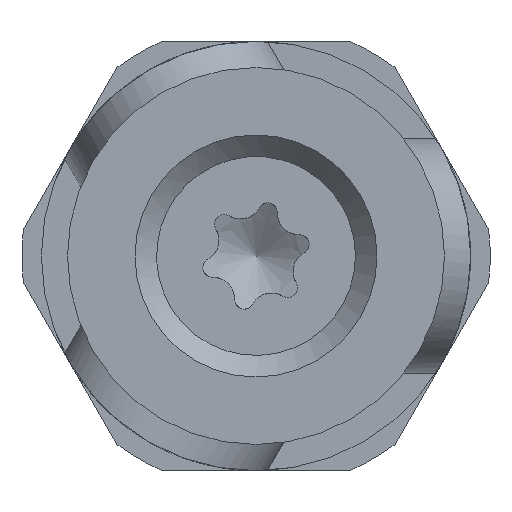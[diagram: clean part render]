
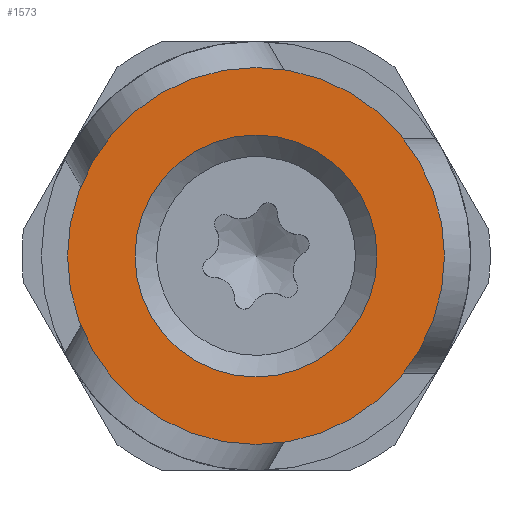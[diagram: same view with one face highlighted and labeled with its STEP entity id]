
A CAD part, front view. The second image highlights one B-rep face of the part: STEP entity #1573.
In plain terms, the highlighted planar face has unit normal (0, -1, 0).
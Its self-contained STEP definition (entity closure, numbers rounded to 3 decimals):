
#308=FACE_BOUND('',#451,.T.);
#356=FACE_OUTER_BOUND('',#450,.T.);
#450=EDGE_LOOP('',(#1241,#1242));
#451=EDGE_LOOP('',(#1243,#1244));
#557=CIRCLE('',#1745,4.83);
#558=CIRCLE('',#1746,4.83);
#559=CIRCLE('',#1748,3.1);
#560=CIRCLE('',#1749,3.1);
#690=VERTEX_POINT('',#2851);
#691=VERTEX_POINT('',#2853);
#692=VERTEX_POINT('',#2857);
#693=VERTEX_POINT('',#2858);
#887=EDGE_CURVE('',#690,#691,#557,.T.);
#888=EDGE_CURVE('',#691,#690,#558,.T.);
#889=EDGE_CURVE('',#692,#693,#559,.T.);
#890=EDGE_CURVE('',#693,#692,#560,.T.);
#1241=ORIENTED_EDGE('',*,*,#888,.F.);
#1242=ORIENTED_EDGE('',*,*,#887,.F.);
#1243=ORIENTED_EDGE('',*,*,#889,.T.);
#1244=ORIENTED_EDGE('',*,*,#890,.T.);
#1453=PLANE('',#1747);
#1573=ADVANCED_FACE('',(#356,#308),#1453,.T.);
#1745=AXIS2_PLACEMENT_3D('',#2854,#2095,#2096);
#1746=AXIS2_PLACEMENT_3D('',#2855,#2097,#2098);
#1747=AXIS2_PLACEMENT_3D('',#2856,#2099,#2100);
#1748=AXIS2_PLACEMENT_3D('',#2859,#2101,#2102);
#1749=AXIS2_PLACEMENT_3D('',#2860,#2103,#2104);
#2095=DIRECTION('center_axis',(0.,1.,0.));
#2096=DIRECTION('ref_axis',(0.5,0.,0.866));
#2097=DIRECTION('center_axis',(0.,1.,0.));
#2098=DIRECTION('ref_axis',(0.5,0.,0.866));
#2099=DIRECTION('center_axis',(0.,-1.,0.));
#2100=DIRECTION('ref_axis',(-0.866,0.,0.5));
#2101=DIRECTION('center_axis',(0.,1.,0.));
#2102=DIRECTION('ref_axis',(-0.5,0.,-0.866));
#2103=DIRECTION('center_axis',(0.,1.,0.));
#2104=DIRECTION('ref_axis',(-0.5,0.,-0.866));
#2851=CARTESIAN_POINT('',(-2.415,-2.4,-4.183));
#2853=CARTESIAN_POINT('',(2.415,-2.4,4.183));
#2854=CARTESIAN_POINT('Origin',(0.,-2.4,0.));
#2855=CARTESIAN_POINT('Origin',(0.,-2.4,0.));
#2856=CARTESIAN_POINT('Origin',(1.208,-2.4,2.092));
#2857=CARTESIAN_POINT('',(-1.55,-2.4,-2.685));
#2858=CARTESIAN_POINT('',(1.55,-2.4,2.685));
#2859=CARTESIAN_POINT('Origin',(0.,-2.4,0.));
#2860=CARTESIAN_POINT('Origin',(0.,-2.4,0.));
